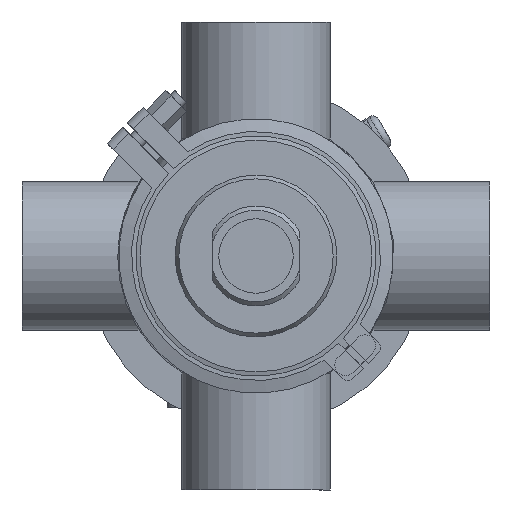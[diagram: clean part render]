
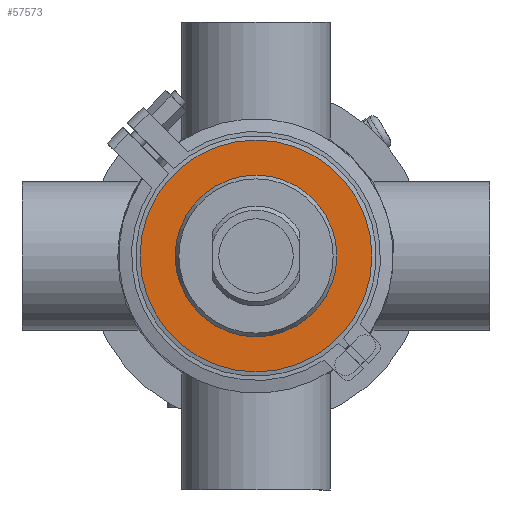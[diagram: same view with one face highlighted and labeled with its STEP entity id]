
A CAD part, front view. The second image highlights one B-rep face of the part: STEP entity #57573.
In plain terms, the highlighted planar face has unit normal (0, -1, 0).
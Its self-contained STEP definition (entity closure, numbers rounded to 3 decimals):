
#2812 = ORIENTED_EDGE ( 'NONE', *, *, #62851, .T. ) ;
#7427 = CARTESIAN_POINT ( 'NONE',  ( 0., -13., 54.5 ) ) ;
#8335 = EDGE_LOOP ( 'NONE', ( #2812 ) ) ;
#8395 = VERTEX_POINT ( 'NONE', #7427 ) ;
#13785 = CARTESIAN_POINT ( 'NONE',  ( -54.5, -13., 0. ) ) ;
#17692 = DIRECTION ( 'NONE',  ( 0., 0., 1. ) ) ;
#18958 = FACE_OUTER_BOUND ( 'NONE', #51739, .T. ) ;
#19499 = AXIS2_PLACEMENT_3D ( 'NONE', #27491, #31350, #31038 ) ;
#20898 = CIRCLE ( 'NONE', #41429, 38. ) ;
#24591 = ORIENTED_EDGE ( 'NONE', *, *, #46635, .F. ) ;
#27491 = CARTESIAN_POINT ( 'NONE',  ( 0., -13., 0. ) ) ;
#28721 = CIRCLE ( 'NONE', #19499, 54.5 ) ;
#29234 = FACE_BOUND ( 'NONE', #8335, .T. ) ;
#30135 = CARTESIAN_POINT ( 'NONE',  ( 0., -13., 38. ) ) ;
#31038 = DIRECTION ( 'NONE',  ( 0., 0., 1. ) ) ;
#31350 = DIRECTION ( 'NONE',  ( 0., 1., 0. ) ) ;
#31578 = AXIS2_PLACEMENT_3D ( 'NONE', #13785, #39192, #47622 ) ;
#39192 = DIRECTION ( 'NONE',  ( 0., -1., 0. ) ) ;
#41429 = AXIS2_PLACEMENT_3D ( 'NONE', #42105, #61840, #17692 ) ;
#42105 = CARTESIAN_POINT ( 'NONE',  ( 0., -13., 0. ) ) ;
#43065 = PLANE ( 'NONE',  #31578 ) ;
#46635 = EDGE_CURVE ( 'NONE', #8395, #8395, #28721, .T. ) ;
#47622 = DIRECTION ( 'NONE',  ( 0., 0., -1. ) ) ;
#51739 = EDGE_LOOP ( 'NONE', ( #24591 ) ) ;
#57573 = ADVANCED_FACE ( 'NONE', ( #29234, #18958 ), #43065, .T. ) ;
#59516 = VERTEX_POINT ( 'NONE', #30135 ) ;
#61840 = DIRECTION ( 'NONE',  ( 0., 1., 0. ) ) ;
#62851 = EDGE_CURVE ( 'NONE', #59516, #59516, #20898, .T. ) ;
